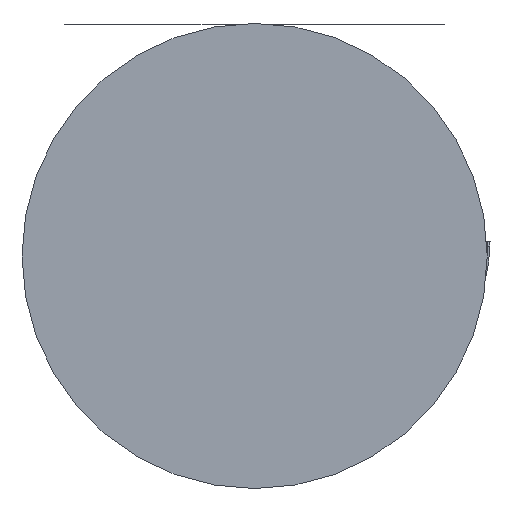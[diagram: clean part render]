
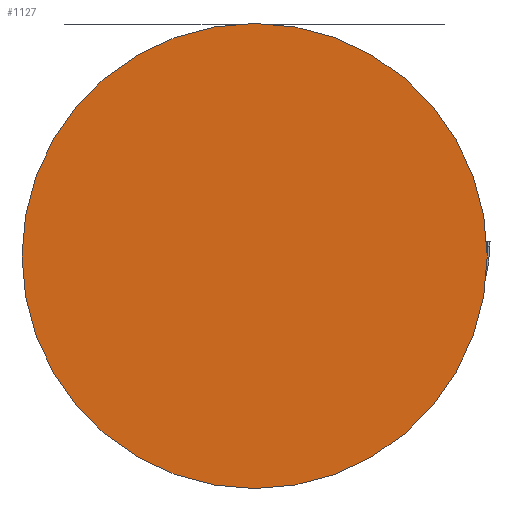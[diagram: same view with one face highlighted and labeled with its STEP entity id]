
A CAD part, front view. The second image highlights one B-rep face of the part: STEP entity #1127.
In plain terms, the highlighted planar face has unit normal (0, -1, 0).
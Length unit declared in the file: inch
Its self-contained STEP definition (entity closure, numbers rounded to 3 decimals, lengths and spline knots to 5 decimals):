
#1060=CARTESIAN_POINT('',(0.,-0.188,0.));
#1061=DIRECTION('',(0.,1.,0.));
#1062=DIRECTION('',(0.,0.,1.));
#1063=AXIS2_PLACEMENT_3D('',#1060,#1061,#1062);
#1065=CARTESIAN_POINT('',(0.,-0.188,0.));
#1066=DIRECTION('',(0.,-1.,0.));
#1067=DIRECTION('',(0.,0.,1.));
#1068=AXIS2_PLACEMENT_3D('',#1065,#1066,#1067);
#1070=CARTESIAN_POINT('',(0.,-0.188,3.063));
#1072=VERTEX_POINT('',#1070);
#1074=CARTESIAN_POINT('',(0.,-0.188,-3.063));
#1076=VERTEX_POINT('',#1074);
#1118=CARTESIAN_POINT('',(0.,-0.188,0.));
#1119=DIRECTION('',(0.,-1.,0.));
#1120=DIRECTION('',(0.,0.,-1.));
#1121=AXIS2_PLACEMENT_3D('',#1118,#1119,#1120);
#1122=PLANE('',#1121);
#1123=ORIENTED_EDGE('',*,*,#1111,.F.);
#1124=ORIENTED_EDGE('',*,*,#1100,.T.);
#1125=EDGE_LOOP('',(#1123,#1124));
#1126=FACE_OUTER_BOUND('',#1125,.F.);
#1127=ADVANCED_FACE('',(#1126),#1122,.T.);
#1064=CIRCLE('',#1063,3.063);
#1069=CIRCLE('',#1068,3.063);
#1100=EDGE_CURVE('',#1072,#1076,#1064,.T.);
#1111=EDGE_CURVE('',#1072,#1076,#1069,.T.);
